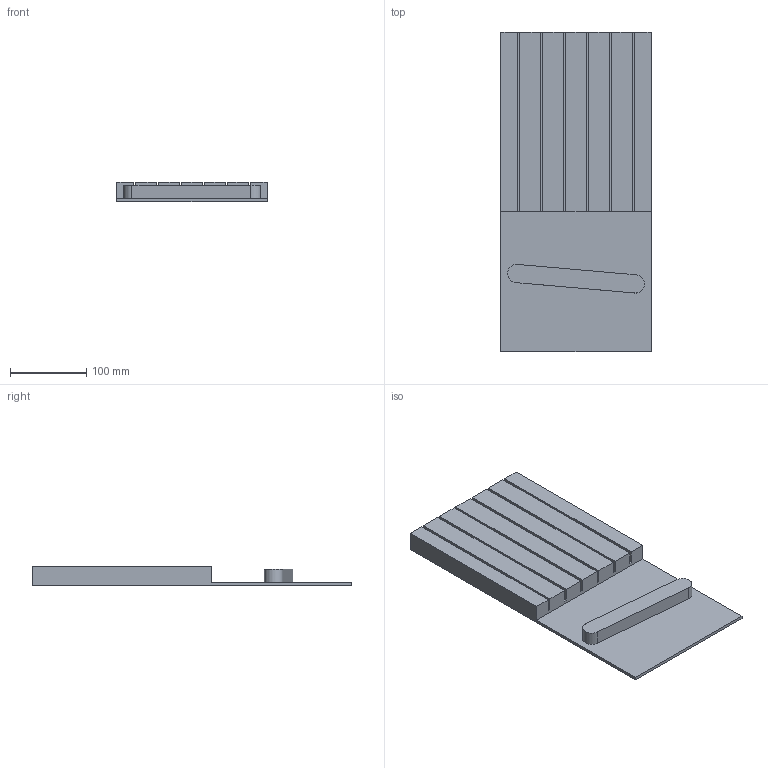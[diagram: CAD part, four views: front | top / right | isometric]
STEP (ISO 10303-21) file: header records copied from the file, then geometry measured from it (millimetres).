
FILE_DESCRIPTION (( 'STEP AP214' ), '1' );
FILE_NAME ('Messerblock - 12425.38.STEP', '2010-10-19T08:13:25', ( 'grass' ), ( '' ), 'SwSTEP 2.0', 'SolidWorks 2010', '' );
FILE_SCHEMA (( 'AUTOMOTIVE_DESIGN' ));
Length unit declared in the file: millimetre
Products named in the file (1): Messerblock - 12425.38
Bounding box: 197 x 419 x 26 mm (x, y, z)
Volume: 1347493 mm3; surface area: 243282.4 mm2
Topology: 1 solids, 1 shells, 38 faces, 105 edges, 70 vertices
Faces by surface type: plane 35, cylinder 3
Entity records: 1229 total; most frequent: CARTESIAN_POINT 214, ORIENTED_EDGE 210, DIRECTION 189, EDGE_CURVE 105, VECTOR 99, LINE 99, VERTEX_POINT 70, AXIS2_PLACEMENT_3D 45
